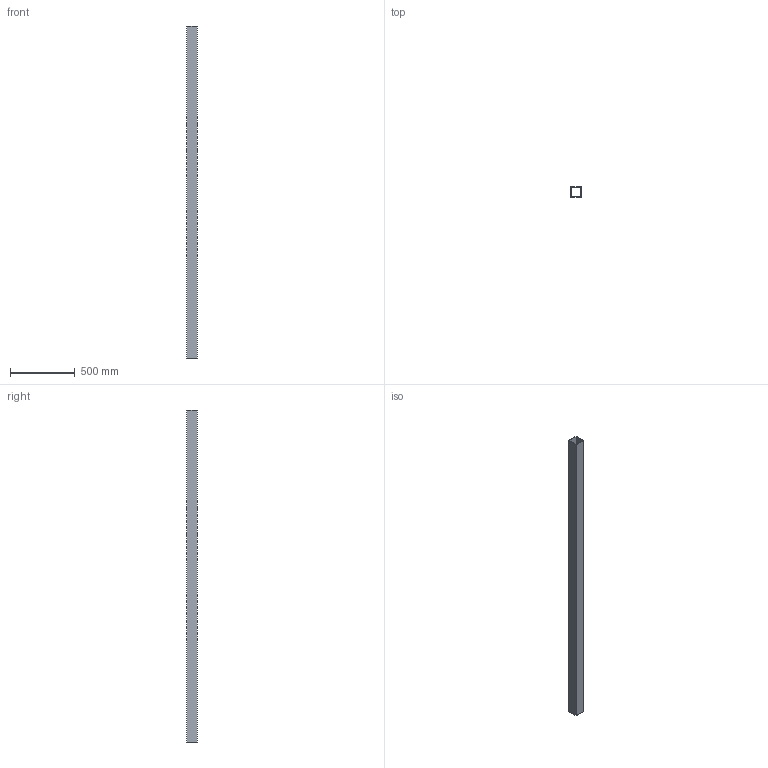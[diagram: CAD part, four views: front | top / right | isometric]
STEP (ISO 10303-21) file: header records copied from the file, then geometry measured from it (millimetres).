
FILE_DESCRIPTION(('Open CASCADE Model'),'2;1');
FILE_NAME('Open CASCADE Shape Model','2026-10-19T10:09:26',('Author'),( 'Open CASCADE'),'Open CASCADE STEP processor 8.0','Open CASCADE 8.0' ,'Unknown');
FILE_SCHEMA(('AUTOMOTIVE_DESIGN { 1 0 10303 214 1 1 1 1 }'));
Length unit declared in the file: millimetre
Products named in the file (1): AC_SHS80x80x4_L2570590 166
Bounding box: 80 x 80 x 2570.59 mm (x, y, z)
Volume: 3125837.6 mm3; surface area: 1565350.8 mm2
Topology: 1 solids, 1 shells, 10 faces, 24 edges, 16 vertices
Faces by surface type: plane 10
Entity records: 614 total; most frequent: CARTESIAN_POINT 99, DIRECTION 94, LINE 72, VECTOR 72, ORIENTED_EDGE 48, PCURVE 48, DEFINITIONAL_REPRESENTATION 48, EDGE_CURVE 24
